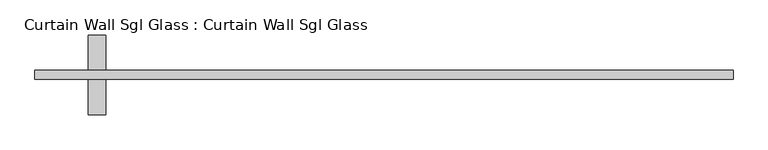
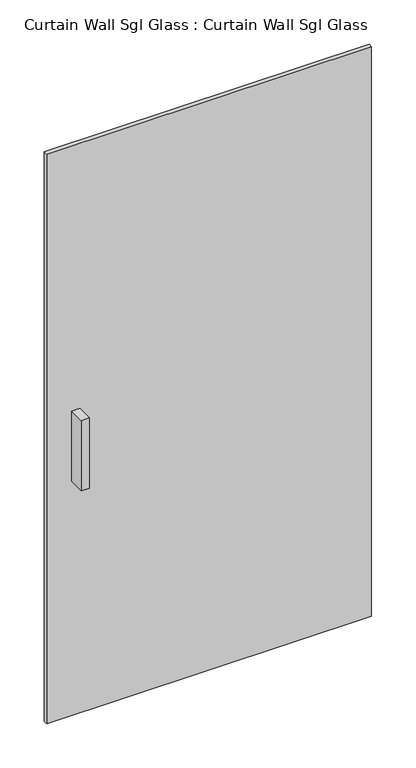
"""IFC4 building model written with IfcOpenShell, lengths in millimetres: plate geometry, Curtain Wall Sgl Glass : Curtain Wall Sgl Glass."""

from ifc_helpers import new_model, si_unit, frame, origin, origin_with_axes, place, context, project, spatial, polyline, outline, extrude, source, transform, mapped, element, save


def curtain_wall_sgl_glass_curtain_wall_sgl_glass_a995fd96(model_context):
    return source(origin(), model_context, "Body", "SweptSolid", [
        extrude(outline(polyline([(-398.2120624, -12.7), (-423.6120624, -12.7), (-423.6120624, 38.1), (-398.2120624, 38.1), (-398.2120624, -12.7)])), frame((0.0, 0.0, 762.0), z_axis=(0.0, 0.0, 1.0), x_axis=(1.0, 0.0, 0.0)), (0.0, 0.0, 1.0), 228.6),
        extrude(outline(polyline([(-423.6120624, 101.6), (-398.2120624, 101.6), (-398.2120624, 50.8), (-423.6120624, 50.8), (-423.6120624, 101.6)])), frame((0.0, 0.0, 762.0), z_axis=(0.0, 0.0, 1.0), x_axis=(1.0, 0.0, 0.0)), (0.0, 0.0, 1.0), 228.6),
        extrude(outline(polyline([(499.8120624, 50.8), (499.8120624, 38.1), (-499.8120624, 38.1), (-499.8120624, 50.8), (499.8120624, 50.8)])), origin_with_axes(), (0.0, 0.0, 1.0), 1853.4335323),
    ])


if __name__ == "__main__":
    model = new_model("IFC4")
    model_context = context("Model", 3, world=origin())
    ifc_project = project(units=[si_unit("LENGTHUNIT", "METRE", prefix="MILLI")], contexts=[model_context])
    site = spatial("IfcSite", under=ifc_project)
    building = spatial("IfcBuilding", under=site)
    placement = place(None, origin())
    curtain_wall_sgl_glass_curtain_wall_sgl_glass_shape = curtain_wall_sgl_glass_curtain_wall_sgl_glass_a995fd96(model_context)
    element("IfcPlate", 1, ObjectType="Curtain Wall Sgl Glass : Curtain Wall Sgl Glass", at=placement, inside=building, context=model_context, shape_type="MappedRepresentation", body=[
        mapped(curtain_wall_sgl_glass_curtain_wall_sgl_glass_shape, transform((0.0, 0.0, 0.0), x_axis=(1.0, 0.0, 0.0), y_axis=(0.0, 1.0, 0.0), z_axis=(0.0, 0.0, 1.0))),
    ])
    save(model, "model.ifc")
